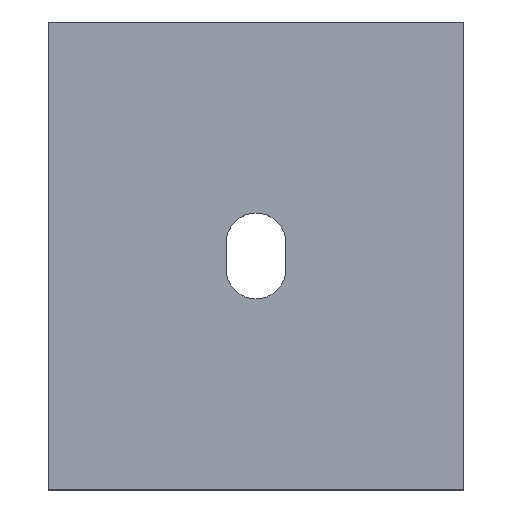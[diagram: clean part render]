
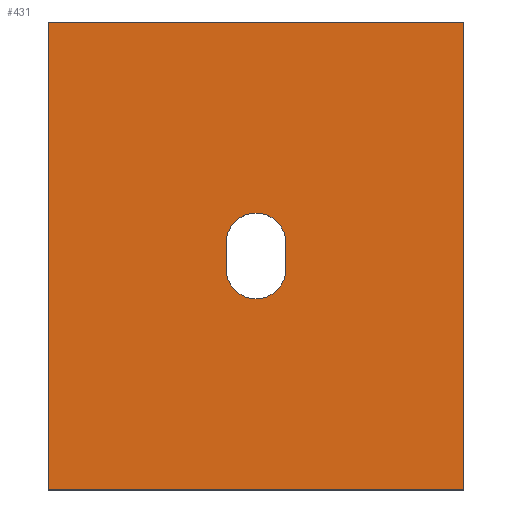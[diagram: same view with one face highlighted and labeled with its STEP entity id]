
A CAD part, top view. The second image highlights one B-rep face of the part: STEP entity #431.
In plain terms, the highlighted planar face has unit normal (0, 0, 1).
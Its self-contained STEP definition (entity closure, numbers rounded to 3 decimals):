
#24 = VERTEX_POINT('',#25);
#25 = CARTESIAN_POINT('',(-16.,-18.,4.));
#32 = PLANE('',#33);
#33 = AXIS2_PLACEMENT_3D('',#34,#35,#36);
#34 = CARTESIAN_POINT('',(-16.,-18.,0.));
#35 = DIRECTION('',(0.,1.,0.));
#36 = DIRECTION('',(1.,0.,0.));
#44 = PLANE('',#45);
#45 = AXIS2_PLACEMENT_3D('',#46,#47,#48);
#46 = CARTESIAN_POINT('',(-16.,18.,0.));
#47 = DIRECTION('',(1.,0.,-0.));
#48 = DIRECTION('',(0.,-1.,0.));
#56 = EDGE_CURVE('',#24,#57,#59,.T.);
#57 = VERTEX_POINT('',#58);
#58 = CARTESIAN_POINT('',(16.,-18.,4.));
#59 = SURFACE_CURVE('',#60,(#64,#71),.PCURVE_S1.);
#60 = LINE('',#61,#62);
#61 = CARTESIAN_POINT('',(-16.,-18.,4.));
#62 = VECTOR('',#63,1.);
#63 = DIRECTION('',(1.,0.,0.));
#64 = PCURVE('',#32,#65);
#65 = DEFINITIONAL_REPRESENTATION('',(#66),#70);
#66 = LINE('',#67,#68);
#67 = CARTESIAN_POINT('',(0.,-4.));
#68 = VECTOR('',#69,1.);
#69 = DIRECTION('',(1.,0.));
#70 = ( GEOMETRIC_REPRESENTATION_CONTEXT(2) 
PARAMETRIC_REPRESENTATION_CONTEXT() REPRESENTATION_CONTEXT('2D SPACE',''
  ) );
#71 = PCURVE('',#72,#77);
#72 = PLANE('',#73);
#73 = AXIS2_PLACEMENT_3D('',#74,#75,#76);
#74 = CARTESIAN_POINT('',(0.,0.,4.));
#75 = DIRECTION('',(0.,0.,1.));
#76 = DIRECTION('',(1.,0.,-0.));
#77 = DEFINITIONAL_REPRESENTATION('',(#78),#82);
#78 = LINE('',#79,#80);
#79 = CARTESIAN_POINT('',(-16.,-18.));
#80 = VECTOR('',#81,1.);
#81 = DIRECTION('',(1.,0.));
#82 = ( GEOMETRIC_REPRESENTATION_CONTEXT(2) 
PARAMETRIC_REPRESENTATION_CONTEXT() REPRESENTATION_CONTEXT('2D SPACE',''
  ) );
#100 = PLANE('',#101);
#101 = AXIS2_PLACEMENT_3D('',#102,#103,#104);
#102 = CARTESIAN_POINT('',(16.,-18.,0.));
#103 = DIRECTION('',(-1.,0.,0.));
#104 = DIRECTION('',(0.,1.,0.));
#144 = VERTEX_POINT('',#145);
#145 = CARTESIAN_POINT('',(-16.,18.,4.));
#159 = PLANE('',#160);
#160 = AXIS2_PLACEMENT_3D('',#161,#162,#163);
#161 = CARTESIAN_POINT('',(16.,18.,0.));
#162 = DIRECTION('',(0.,-1.,0.));
#163 = DIRECTION('',(-1.,0.,0.));
#171 = EDGE_CURVE('',#144,#24,#172,.T.);
#172 = SURFACE_CURVE('',#173,(#177,#184),.PCURVE_S1.);
#173 = LINE('',#174,#175);
#174 = CARTESIAN_POINT('',(-16.,18.,4.));
#175 = VECTOR('',#176,1.);
#176 = DIRECTION('',(0.,-1.,0.));
#177 = PCURVE('',#44,#178);
#178 = DEFINITIONAL_REPRESENTATION('',(#179),#183);
#179 = LINE('',#180,#181);
#180 = CARTESIAN_POINT('',(0.,-4.));
#181 = VECTOR('',#182,1.);
#182 = DIRECTION('',(1.,0.));
#183 = ( GEOMETRIC_REPRESENTATION_CONTEXT(2) 
PARAMETRIC_REPRESENTATION_CONTEXT() REPRESENTATION_CONTEXT('2D SPACE',''
  ) );
#184 = PCURVE('',#72,#185);
#185 = DEFINITIONAL_REPRESENTATION('',(#186),#190);
#186 = LINE('',#187,#188);
#187 = CARTESIAN_POINT('',(-16.,18.));
#188 = VECTOR('',#189,1.);
#189 = DIRECTION('',(0.,-1.));
#190 = ( GEOMETRIC_REPRESENTATION_CONTEXT(2) 
PARAMETRIC_REPRESENTATION_CONTEXT() REPRESENTATION_CONTEXT('2D SPACE',''
  ) );
#218 = EDGE_CURVE('',#57,#219,#221,.T.);
#219 = VERTEX_POINT('',#220);
#220 = CARTESIAN_POINT('',(16.,18.,4.));
#221 = SURFACE_CURVE('',#222,(#226,#233),.PCURVE_S1.);
#222 = LINE('',#223,#224);
#223 = CARTESIAN_POINT('',(16.,-18.,4.));
#224 = VECTOR('',#225,1.);
#225 = DIRECTION('',(0.,1.,0.));
#226 = PCURVE('',#100,#227);
#227 = DEFINITIONAL_REPRESENTATION('',(#228),#232);
#228 = LINE('',#229,#230);
#229 = CARTESIAN_POINT('',(0.,-4.));
#230 = VECTOR('',#231,1.);
#231 = DIRECTION('',(1.,0.));
#232 = ( GEOMETRIC_REPRESENTATION_CONTEXT(2) 
PARAMETRIC_REPRESENTATION_CONTEXT() REPRESENTATION_CONTEXT('2D SPACE',''
  ) );
#233 = PCURVE('',#72,#234);
#234 = DEFINITIONAL_REPRESENTATION('',(#235),#239);
#235 = LINE('',#236,#237);
#236 = CARTESIAN_POINT('',(16.,-18.));
#237 = VECTOR('',#238,1.);
#238 = DIRECTION('',(0.,1.));
#239 = ( GEOMETRIC_REPRESENTATION_CONTEXT(2) 
PARAMETRIC_REPRESENTATION_CONTEXT() REPRESENTATION_CONTEXT('2D SPACE',''
  ) );
#331 = PLANE('',#332);
#332 = AXIS2_PLACEMENT_3D('',#333,#334,#335);
#333 = CARTESIAN_POINT('',(-2.3,-1.,-1.));
#334 = DIRECTION('',(-1.,0.,0.));
#335 = DIRECTION('',(0.,1.,0.));
#363 = CYLINDRICAL_SURFACE('',#364,2.3);
#364 = AXIS2_PLACEMENT_3D('',#365,#366,#367);
#365 = CARTESIAN_POINT('',(0.,1.,-1.));
#366 = DIRECTION('',(0.,0.,-1.));
#367 = DIRECTION('',(-1.,0.,0.));
#390 = PLANE('',#391);
#391 = AXIS2_PLACEMENT_3D('',#392,#393,#394);
#392 = CARTESIAN_POINT('',(2.3,1.,-1.));
#393 = DIRECTION('',(1.,0.,0.));
#394 = DIRECTION('',(0.,-1.,0.));
#420 = CYLINDRICAL_SURFACE('',#421,2.3);
#421 = AXIS2_PLACEMENT_3D('',#422,#423,#424);
#422 = CARTESIAN_POINT('',(0.,-1.,-1.));
#423 = DIRECTION('',(0.,-0.,-1.));
#424 = DIRECTION('',(1.,0.,0.));
#431 = ADVANCED_FACE('',(#432,#458),#72,.T.);
#432 = FACE_BOUND('',#433,.T.);
#433 = EDGE_LOOP('',(#434,#435,#436,#457));
#434 = ORIENTED_EDGE('',*,*,#56,.T.);
#435 = ORIENTED_EDGE('',*,*,#218,.T.);
#436 = ORIENTED_EDGE('',*,*,#437,.T.);
#437 = EDGE_CURVE('',#219,#144,#438,.T.);
#438 = SURFACE_CURVE('',#439,(#443,#450),.PCURVE_S1.);
#439 = LINE('',#440,#441);
#440 = CARTESIAN_POINT('',(16.,18.,4.));
#441 = VECTOR('',#442,1.);
#442 = DIRECTION('',(-1.,0.,0.));
#443 = PCURVE('',#72,#444);
#444 = DEFINITIONAL_REPRESENTATION('',(#445),#449);
#445 = LINE('',#446,#447);
#446 = CARTESIAN_POINT('',(16.,18.));
#447 = VECTOR('',#448,1.);
#448 = DIRECTION('',(-1.,0.));
#449 = ( GEOMETRIC_REPRESENTATION_CONTEXT(2) 
PARAMETRIC_REPRESENTATION_CONTEXT() REPRESENTATION_CONTEXT('2D SPACE',''
  ) );
#450 = PCURVE('',#159,#451);
#451 = DEFINITIONAL_REPRESENTATION('',(#452),#456);
#452 = LINE('',#453,#454);
#453 = CARTESIAN_POINT('',(0.,-4.));
#454 = VECTOR('',#455,1.);
#455 = DIRECTION('',(1.,0.));
#456 = ( GEOMETRIC_REPRESENTATION_CONTEXT(2) 
PARAMETRIC_REPRESENTATION_CONTEXT() REPRESENTATION_CONTEXT('2D SPACE',''
  ) );
#457 = ORIENTED_EDGE('',*,*,#171,.T.);
#458 = FACE_BOUND('',#459,.T.);
#459 = EDGE_LOOP('',(#460,#483,#511,#532));
#460 = ORIENTED_EDGE('',*,*,#461,.F.);
#461 = EDGE_CURVE('',#462,#464,#466,.T.);
#462 = VERTEX_POINT('',#463);
#463 = CARTESIAN_POINT('',(-2.3,1.,4.));
#464 = VERTEX_POINT('',#465);
#465 = CARTESIAN_POINT('',(-2.3,-1.,4.));
#466 = SURFACE_CURVE('',#467,(#471,#477),.PCURVE_S1.);
#467 = LINE('',#468,#469);
#468 = CARTESIAN_POINT('',(-2.3,-0.5,4.));
#469 = VECTOR('',#470,1.);
#470 = DIRECTION('',(0.,-1.,0.));
#471 = PCURVE('',#72,#472);
#472 = DEFINITIONAL_REPRESENTATION('',(#473),#476);
#473 = B_SPLINE_CURVE_WITH_KNOTS('',1,(#474,#475),.UNSPECIFIED.,.F.,.F.,
  (2,2),(-1.5,0.5),.PIECEWISE_BEZIER_KNOTS.);
#474 = CARTESIAN_POINT('',(-2.3,1.));
#475 = CARTESIAN_POINT('',(-2.3,-1.));
#476 = ( GEOMETRIC_REPRESENTATION_CONTEXT(2) 
PARAMETRIC_REPRESENTATION_CONTEXT() REPRESENTATION_CONTEXT('2D SPACE',''
  ) );
#477 = PCURVE('',#331,#478);
#478 = DEFINITIONAL_REPRESENTATION('',(#479),#482);
#479 = B_SPLINE_CURVE_WITH_KNOTS('',1,(#480,#481),.UNSPECIFIED.,.F.,.F.,
  (2,2),(-1.5,0.5),.PIECEWISE_BEZIER_KNOTS.);
#480 = CARTESIAN_POINT('',(2.,-5.));
#481 = CARTESIAN_POINT('',(0.,-5.));
#482 = ( GEOMETRIC_REPRESENTATION_CONTEXT(2) 
PARAMETRIC_REPRESENTATION_CONTEXT() REPRESENTATION_CONTEXT('2D SPACE',''
  ) );
#483 = ORIENTED_EDGE('',*,*,#484,.T.);
#484 = EDGE_CURVE('',#462,#485,#487,.T.);
#485 = VERTEX_POINT('',#486);
#486 = CARTESIAN_POINT('',(2.3,1.,4.));
#487 = SURFACE_CURVE('',#488,(#493,#504),.PCURVE_S1.);
#488 = CIRCLE('',#489,2.3);
#489 = AXIS2_PLACEMENT_3D('',#490,#491,#492);
#490 = CARTESIAN_POINT('',(0.,1.,4.));
#491 = DIRECTION('',(0.,0.,-1.));
#492 = DIRECTION('',(-1.,0.,0.));
#493 = PCURVE('',#72,#494);
#494 = DEFINITIONAL_REPRESENTATION('',(#495),#503);
#495 = ( BOUNDED_CURVE() B_SPLINE_CURVE(2,(#496,#497,#498,#499,#500,#501
,#502),.UNSPECIFIED.,.T.,.F.) B_SPLINE_CURVE_WITH_KNOTS((1,2,2,2,2,1),(
    -2.094,0.,2.094,4.189,6.283,
8.378),.UNSPECIFIED.) CURVE() GEOMETRIC_REPRESENTATION_ITEM() 
RATIONAL_B_SPLINE_CURVE((1.,0.5,1.,0.5,1.,0.5,1.)) REPRESENTATION_ITEM(
  '') );
#496 = CARTESIAN_POINT('',(-2.3,1.));
#497 = CARTESIAN_POINT('',(-2.3,4.984));
#498 = CARTESIAN_POINT('',(1.15,2.992));
#499 = CARTESIAN_POINT('',(4.6,1.));
#500 = CARTESIAN_POINT('',(1.15,-0.992));
#501 = CARTESIAN_POINT('',(-2.3,-2.984));
#502 = CARTESIAN_POINT('',(-2.3,1.));
#503 = ( GEOMETRIC_REPRESENTATION_CONTEXT(2) 
PARAMETRIC_REPRESENTATION_CONTEXT() REPRESENTATION_CONTEXT('2D SPACE',''
  ) );
#504 = PCURVE('',#363,#505);
#505 = DEFINITIONAL_REPRESENTATION('',(#506),#510);
#506 = LINE('',#507,#508);
#507 = CARTESIAN_POINT('',(0.,-5.));
#508 = VECTOR('',#509,1.);
#509 = DIRECTION('',(1.,0.));
#510 = ( GEOMETRIC_REPRESENTATION_CONTEXT(2) 
PARAMETRIC_REPRESENTATION_CONTEXT() REPRESENTATION_CONTEXT('2D SPACE',''
  ) );
#511 = ORIENTED_EDGE('',*,*,#512,.F.);
#512 = EDGE_CURVE('',#513,#485,#515,.T.);
#513 = VERTEX_POINT('',#514);
#514 = CARTESIAN_POINT('',(2.3,-1.,4.));
#515 = SURFACE_CURVE('',#516,(#520,#526),.PCURVE_S1.);
#516 = LINE('',#517,#518);
#517 = CARTESIAN_POINT('',(2.3,0.5,4.));
#518 = VECTOR('',#519,1.);
#519 = DIRECTION('',(0.,1.,-0.));
#520 = PCURVE('',#72,#521);
#521 = DEFINITIONAL_REPRESENTATION('',(#522),#525);
#522 = B_SPLINE_CURVE_WITH_KNOTS('',1,(#523,#524),.UNSPECIFIED.,.F.,.F.,
  (2,2),(-1.5,0.5),.PIECEWISE_BEZIER_KNOTS.);
#523 = CARTESIAN_POINT('',(2.3,-1.));
#524 = CARTESIAN_POINT('',(2.3,1.));
#525 = ( GEOMETRIC_REPRESENTATION_CONTEXT(2) 
PARAMETRIC_REPRESENTATION_CONTEXT() REPRESENTATION_CONTEXT('2D SPACE',''
  ) );
#526 = PCURVE('',#390,#527);
#527 = DEFINITIONAL_REPRESENTATION('',(#528),#531);
#528 = B_SPLINE_CURVE_WITH_KNOTS('',1,(#529,#530),.UNSPECIFIED.,.F.,.F.,
  (2,2),(-1.5,0.5),.PIECEWISE_BEZIER_KNOTS.);
#529 = CARTESIAN_POINT('',(2.,-5.));
#530 = CARTESIAN_POINT('',(0.,-5.));
#531 = ( GEOMETRIC_REPRESENTATION_CONTEXT(2) 
PARAMETRIC_REPRESENTATION_CONTEXT() REPRESENTATION_CONTEXT('2D SPACE',''
  ) );
#532 = ORIENTED_EDGE('',*,*,#533,.T.);
#533 = EDGE_CURVE('',#513,#464,#534,.T.);
#534 = SURFACE_CURVE('',#535,(#540,#551),.PCURVE_S1.);
#535 = CIRCLE('',#536,2.3);
#536 = AXIS2_PLACEMENT_3D('',#537,#538,#539);
#537 = CARTESIAN_POINT('',(0.,-1.,4.));
#538 = DIRECTION('',(0.,-0.,-1.));
#539 = DIRECTION('',(1.,0.,0.));
#540 = PCURVE('',#72,#541);
#541 = DEFINITIONAL_REPRESENTATION('',(#542),#550);
#542 = ( BOUNDED_CURVE() B_SPLINE_CURVE(2,(#543,#544,#545,#546,#547,#548
,#549),.UNSPECIFIED.,.T.,.F.) B_SPLINE_CURVE_WITH_KNOTS((1,2,2,2,2,1),(
    -2.094,0.,2.094,4.189,6.283,
8.378),.UNSPECIFIED.) CURVE() GEOMETRIC_REPRESENTATION_ITEM() 
RATIONAL_B_SPLINE_CURVE((1.,0.5,1.,0.5,1.,0.5,1.)) REPRESENTATION_ITEM(
  '') );
#543 = CARTESIAN_POINT('',(2.3,-1.));
#544 = CARTESIAN_POINT('',(2.3,-4.984));
#545 = CARTESIAN_POINT('',(-1.15,-2.992));
#546 = CARTESIAN_POINT('',(-4.6,-1.));
#547 = CARTESIAN_POINT('',(-1.15,0.992));
#548 = CARTESIAN_POINT('',(2.3,2.984));
#549 = CARTESIAN_POINT('',(2.3,-1.));
#550 = ( GEOMETRIC_REPRESENTATION_CONTEXT(2) 
PARAMETRIC_REPRESENTATION_CONTEXT() REPRESENTATION_CONTEXT('2D SPACE',''
  ) );
#551 = PCURVE('',#420,#552);
#552 = DEFINITIONAL_REPRESENTATION('',(#553),#557);
#553 = LINE('',#554,#555);
#554 = CARTESIAN_POINT('',(0.,-5.));
#555 = VECTOR('',#556,1.);
#556 = DIRECTION('',(1.,0.));
#557 = ( GEOMETRIC_REPRESENTATION_CONTEXT(2) 
PARAMETRIC_REPRESENTATION_CONTEXT() REPRESENTATION_CONTEXT('2D SPACE',''
  ) );
